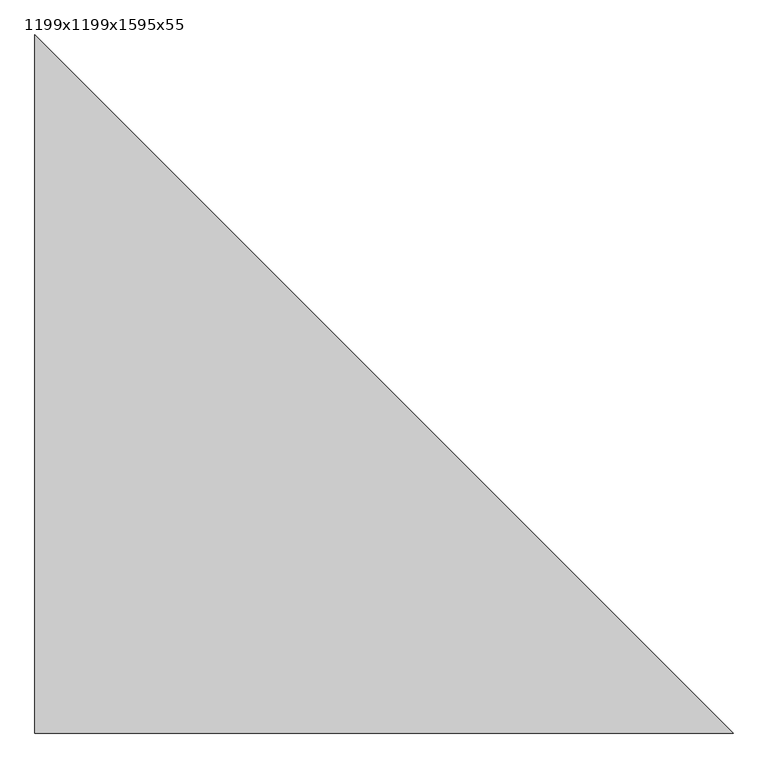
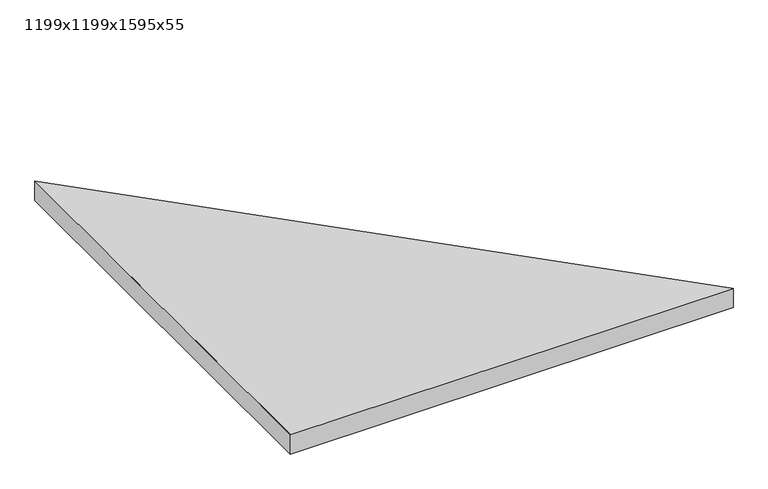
"""IFC4 building model written with IfcOpenShell, lengths in millimetres: proxy geometry, Texaa Panneaux Stereo fixés contre support par système magnétique séparés ou groupés au mur : 1199x1199x1595x55."""

from ifc_helpers import new_model, si_unit, frame, origin, place, context, project, spatial, polyline, outline, extrude, faceted_brep, source, transform, mapped, element, save


def proxy_1199x1199x1595x55_72800263(model_context):
    return source(origin(), model_context, "Body", "SolidModel", [
        extrude(outline(polyline([(597.0857864, -598.5), (-598.5, -598.5), (-598.5, 597.0857864), (597.0857864, -598.5)])), frame((0.0, 0.0, 11.0), z_axis=(0.0, 0.0, 1.0), x_axis=(1.0, 0.0, 0.0)), (0.0, 0.0, 1.0), 53.0),
        faceted_brep([(599.5, -599.5, 65.0), (-599.5, 599.5, 65.0), (-599.5, 596.6715729, 65.0), (-599.5, -599.5, 65.0), (596.6715729, -599.5, 65.0), (-599.5, 599.5, 10.0), (599.5, -599.5, 10.0), (-599.5, -599.5, 10.0), (-549.5, 478.7893219, 10.0), (-549.5, -549.5, 10.0), (478.7893219, -549.5, 10.0), (-549.5, -549.5, 11.0), (478.7893219, -549.5, 11.0), (-549.5, 478.7893219, 11.0), (595.6715729, -598.5, 64.0), (-598.5, -598.5, 64.0), (-598.5, 595.6715729, 64.0), (-598.5, 595.6715729, 11.0), (-598.5, -598.5, 11.0), (595.6715729, -598.5, 11.0)], [[[0, 1, 2, 3, 4]], [[5, 6, 7], [8, 9, 10]], [[5, 7, 3, 2, 1]], [[3, 7, 6, 0, 4]], [[9, 11, 12, 10]], [[11, 9, 8, 13]], [[14, 15, 16]], [[17, 18, 19], [12, 11, 13]], [[15, 18, 17, 16]], [[18, 15, 14, 19]], [[1, 0, 6, 5]], [[8, 10, 12, 13]], [[14, 16, 17, 19]]]),
    ])


if __name__ == "__main__":
    model = new_model("IFC4")
    model_context = context("Model", 3, world=origin())
    ifc_project = project(units=[si_unit("LENGTHUNIT", "METRE", prefix="MILLI")], contexts=[model_context])
    site = spatial("IfcSite", under=ifc_project)
    building = spatial("IfcBuilding", under=site)
    placement = place(None, origin())
    proxy_1199x1199x1595x55_shape = proxy_1199x1199x1595x55_72800263(model_context)
    element("IfcBuildingElementProxy", 1, Name="Texaa Panneaux Stereo fixés contre support par système magnétique séparés ou groupés au mur : 1199x1199x1595x55", ObjectType="Texaa Panneaux Stereo fixés contre support par système magnétique séparés ou groupés au mur : 1199x1199x1595x55", at=placement, inside=building, context=model_context, shape_type="MappedRepresentation", body=[
        mapped(proxy_1199x1199x1595x55_shape, transform((0.0, 0.0, 0.0), x_axis=(1.0, 0.0, 0.0), y_axis=(0.0, 1.0, 0.0), z_axis=(0.0, 0.0, 1.0))),
    ])
    save(model, "model.ifc")
